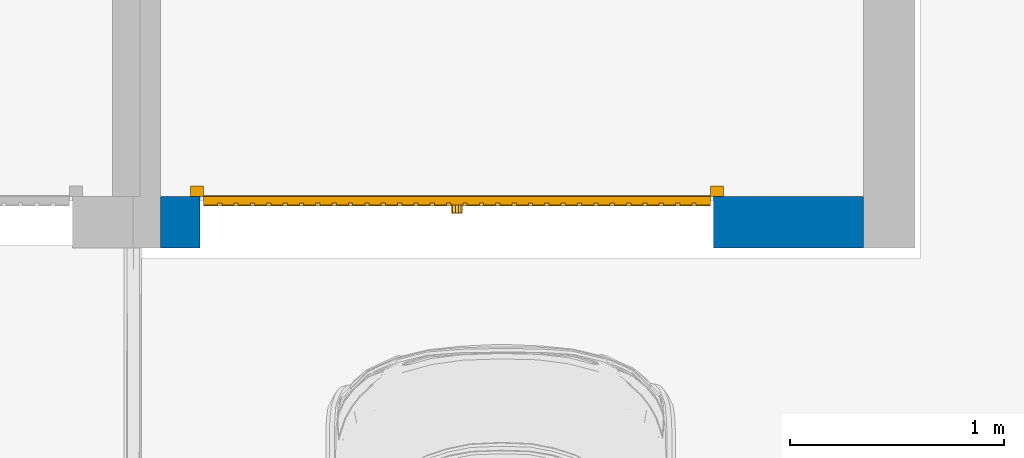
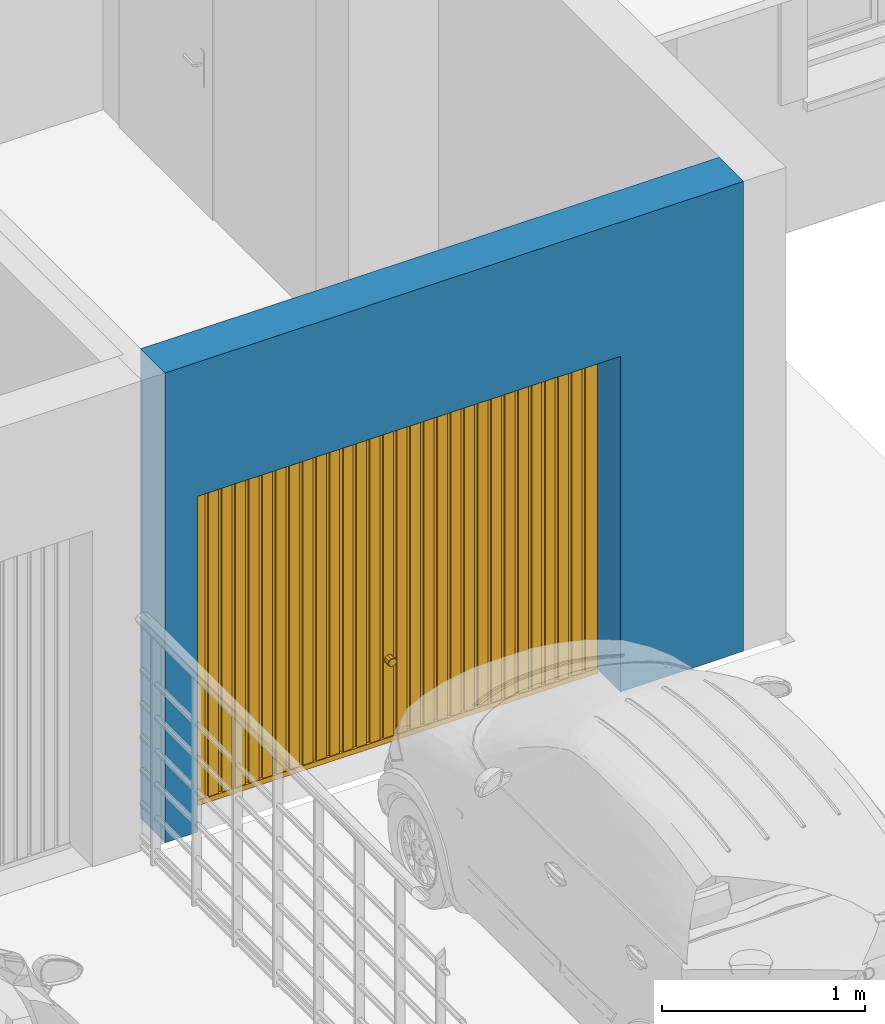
# One storey, part 15 of 33: 1 door, 1 wall, 1 opening.
"""IFC2X3 building model written with IfcOpenShell, lengths in metres."""

from ifc_helpers import new_model, entity, si_unit, converted_unit, derived_unit, direction, frame, frame_2d, origin, place, context, subcontext, project, spatial, rectangle, extrude, faceted_brep, source, transform, mapped, material, material_list, layer, layer_set, layer_usage, type_object, type_shapes, element, fill, save


model = new_model("IFC2X3")

# Units and contexts
model_context = context("Model", 3, precision=1e-05, world=origin(), true_north=direction((6.12303176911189e-17, 1.0)))
context_of_model = context(None, 3, precision=1e-05, world=origin(), true_north=direction((6.12303176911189e-17, 1.0)))
body_context = subcontext(model_context, "Body", "Model", "MODEL_VIEW")
ifc_project = project(units=[si_unit("LENGTHUNIT", "METRE"), si_unit("AREAUNIT", "SQUARE_METRE"), si_unit("VOLUMEUNIT", "CUBIC_METRE"), converted_unit("PLANEANGLEUNIT", "DEGREE", entity("IfcRatioMeasure", 0.0174532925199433), si_unit("PLANEANGLEUNIT", "RADIAN"), dimensions=[0, 0, 0, 0, 0, 0, 0]), si_unit("MASSUNIT", "GRAM", prefix="KILO"), si_unit("TIMEUNIT", "SECOND"), si_unit("FREQUENCYUNIT", "HERTZ"), si_unit("THERMODYNAMICTEMPERATUREUNIT", "DEGREE_CELSIUS"), derived_unit("THERMALTRANSMITTANCEUNIT", [(si_unit("MASSUNIT", "GRAM", prefix="KILO"), 1), (si_unit("THERMODYNAMICTEMPERATUREUNIT", "KELVIN"), -1), (si_unit("TIMEUNIT", "SECOND"), -3)]), derived_unit("VOLUMETRICFLOWRATEUNIT", [(si_unit("LENGTHUNIT", "METRE"), 3), (si_unit("TIMEUNIT", "SECOND"), -1)]), si_unit("ELECTRICCURRENTUNIT", "AMPERE"), si_unit("ELECTRICVOLTAGEUNIT", "VOLT"), si_unit("POWERUNIT", "WATT"), si_unit("FORCEUNIT", "NEWTON", prefix="KILO"), si_unit("ILLUMINANCEUNIT", "LUX"), si_unit("LUMINOUSFLUXUNIT", "LUMEN"), si_unit("LUMINOUSINTENSITYUNIT", "CANDELA"), si_unit("PRESSUREUNIT", "PASCAL")], contexts=[model_context, context_of_model])

# Site, building, storey
site_placement = place(None, origin())
site = spatial("IfcSite", under=ifc_project, at=site_placement, Name="Surface", CompositionType="ELEMENT")
building_placement = place(site_placement, origin())
building = spatial("IfcBuilding", under=site, at=building_placement, CompositionType="ELEMENT")
storey_placement = place(building_placement, origin())
storey = spatial("IfcBuildingStorey", under=building, at=storey_placement, Name="Plan des fondations  Maisons 1 et 2", CompositionType="ELEMENT", Elevation=0.0)

# Wall, opening, door
ifc_material_1 = material(Name="Enduit  gris")
ifc_layer_1 = layer(ifc_material_1, 0.02)
ifc_material_2 = material(Name="Parpaing")
ifc_layer_2 = layer(ifc_material_2, 0.2)
ifc_layer_3 = layer(ifc_material_1, 0.02)
ifc_layer_set = layer_set([ifc_layer_1, ifc_layer_2, ifc_layer_3], Name="Mur de base:Ext. Parpaing 2 + 20 + 2 gris")
ifc_layer_usage = layer_usage(ifc_layer_set, "AXIS2", "NEGATIVE", 0.12)
wall_type = type_object("IfcWallType", Name="Mur de base:Ext. Parpaing 2 + 20 + 2 gris", PredefinedType="STANDARD", material=ifc_layer_set)
wall_placement = place(building_placement, frame((83.8417857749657, 81.0475239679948, 0.0)))
wall = element("IfcWallStandardCase", 1, at=wall_placement, inside=storey, type_object=wall_type, material=ifc_layer_usage, Name="Mur de base:Ext. Parpaing 2 + 20 + 2 gris", ObjectType="Mur de base:Ext. Parpaing 2 + 20 + 2 gris", context=body_context, shape_type="SweptSolid", body=[
    extrude(rectangle(XDim=3.28499999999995, YDim=0.240000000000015, at=frame_2d((1.64249999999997, 0.0), x_axis=(-1.0, 0.0))), origin(), (0.0, 0.0, 1.0), 2.82),
])
opening_placement = place(wall_placement, frame((-83.8417857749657, -81.0475239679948, 0.0)))
opening = element("IfcOpeningElement", 2, at=opening_placement, cuts=wall, Name="Mur de base:Ext. Parpaing 2 + 20 + 2 gris", ObjectType="Opening", context=body_context, shape_type="SweptSolid", body=[
    extrude(rectangle(XDim=2.01500000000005, YDim=2.39999999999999, at=frame_2d((0.0, 8.65973959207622e-15), x_axis=(1.0, 0.0))), frame((85.2267857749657, 80.6275239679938, 1.00750000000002), z_axis=(0.0, 1.0, 0.0), x_axis=(0.0, 0.0, -1.0)), (0.0, 0.0, 1.0), 0.840000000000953),
])
ifc_material_3 = material(Name="Plastique - Noir")
ifc_material_4 = material(Name="Peinture - Grise")
ifc_material_list_1 = material_list([ifc_material_3, ifc_material_4])
ifc_material_list_2 = material_list([ifc_material_3, ifc_material_4])
door_style = type_object("IfcDoorStyle", Name="2.4m x 2m", ConstructionType="NOTDEFINED", OperationType="ROLLINGUP", ParameterTakesPrecedence=False, Sizeable=False, material=ifc_material_list_2)
shared_shape = source(origin(), body_context, "Body", "Brep", [
    faceted_brep([(1.17823441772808, 0.377902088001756, 0.490045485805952), (1.17738728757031, 0.377902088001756, 0.492652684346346), (1.17669426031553, 0.377902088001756, 0.494785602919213), (1.175, 0.377902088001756, 0.500000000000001), (1.17709791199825, 0.380000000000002, 0.500000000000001), (1.17928486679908, 0.380000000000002, 0.493269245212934), (1.18147182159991, 0.380000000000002, 0.486538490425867), (1.17977457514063, 0.377902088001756, 0.485305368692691), (1.21993909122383, 0.380000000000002, 0.490880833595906), (1.22135000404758, 0.380000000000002, 0.495223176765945), (1.22290208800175, 0.380000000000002, 0.500000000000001), (1.225, 0.377902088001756, 0.500000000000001), (1.22261271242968, 0.377902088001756, 0.492652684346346), (1.22022542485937, 0.377902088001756, 0.485305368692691), (1.21852817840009, 0.380000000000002, 0.486538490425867), (1.21397542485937, 0.377902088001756, 0.480764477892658), (1.20772542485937, 0.377902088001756, 0.476223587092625), (1.20707713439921, 0.380000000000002, 0.478218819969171), (1.21280265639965, 0.380000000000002, 0.482378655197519), (1.19292286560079, 0.380000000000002, 0.478218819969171), (1.2, 0.380000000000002, 0.478218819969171), (1.2, 0.377902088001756, 0.476223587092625), (1.19227457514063, 0.377902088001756, 0.476223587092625), (1.18602457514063, 0.377902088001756, 0.480764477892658), (1.18719734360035, 0.380000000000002, 0.482378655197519), (1.22176558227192, 0.377902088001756, 0.509954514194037), (1.22261271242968, 0.377902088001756, 0.507347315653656), (1.22330573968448, 0.377902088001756, 0.505214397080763), (1.22071513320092, 0.380000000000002, 0.506730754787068), (1.21852817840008, 0.380000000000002, 0.513461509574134), (1.22022542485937, 0.377902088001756, 0.514694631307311), (1.18006090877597, 0.380000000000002, 0.5091191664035), (1.17864999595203, 0.380000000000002, 0.504776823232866), (1.17738728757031, 0.377902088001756, 0.507347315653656), (1.17977457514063, 0.377902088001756, 0.514694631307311), (1.18147182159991, 0.380000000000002, 0.513461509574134), (1.18602457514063, 0.377902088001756, 0.519235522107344), (1.19227457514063, 0.377902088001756, 0.523776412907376), (1.19292286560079, 0.380000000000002, 0.521781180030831), (1.18719734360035, 0.380000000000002, 0.517621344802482), (1.20707713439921, 0.380000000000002, 0.521781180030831), (1.2, 0.380000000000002, 0.521781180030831), (1.2, 0.377902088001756, 0.523776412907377), (1.20772542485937, 0.377902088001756, 0.523776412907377), (1.21397542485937, 0.377902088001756, 0.519235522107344), (1.21280265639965, 0.380000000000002, 0.517621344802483), (1.2, 0.380000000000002, 0.500000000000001), (1.2, 0.340000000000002, 0.500000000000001), (1.17977457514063, 0.340000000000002, 0.485305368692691), (1.18602457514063, 0.340000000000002, 0.480764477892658), (1.19227457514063, 0.340000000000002, 0.476223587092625), (1.2, 0.340000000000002, 0.476223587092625), (1.17805454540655, 0.340000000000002, 0.490599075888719), (1.17652727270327, 0.340000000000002, 0.49529953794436), (1.175, 0.340000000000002, 0.500000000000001), (1.20772542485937, 0.340000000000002, 0.476223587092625), (1.21397542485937, 0.340000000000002, 0.480764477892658), (1.22022542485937, 0.340000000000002, 0.485305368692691), (1.22261271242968, 0.340000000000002, 0.492652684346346), (1.22499999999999, 0.340000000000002, 0.500000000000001), (1.22347272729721, 0.340000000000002, 0.50470046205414), (1.17738728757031, 0.340000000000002, 0.507347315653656), (1.17977457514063, 0.340000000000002, 0.514694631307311), (1.18602457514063, 0.340000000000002, 0.519235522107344), (1.19227457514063, 0.340000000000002, 0.523776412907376), (1.22194545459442, 0.340000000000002, 0.509400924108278), (1.22022542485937, 0.340000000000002, 0.514694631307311), (1.21397542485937, 0.340000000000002, 0.519235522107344), (1.20772542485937, 0.340000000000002, 0.523776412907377), (1.2, 0.340000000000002, 0.523776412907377)], [[[0, 1, 2, 3, 4, 5, 6, 7]], [[8, 9, 10, 11, 12, 13, 14]], [[13, 15, 16, 17, 18, 14]], [[19, 20, 17, 16, 21, 22]], [[22, 23, 7, 6, 24, 19]], [[25, 26, 27, 11, 10, 28, 29, 30]], [[31, 32, 4, 3, 33, 34, 35]], [[34, 36, 37, 38, 39, 35]], [[40, 41, 38, 37, 42, 43]], [[43, 44, 30, 29, 45, 40]], [[46, 19, 24]], [[46, 24, 6]], [[46, 6, 5]], [[46, 5, 4]], [[46, 4, 32]], [[46, 20, 19]], [[46, 17, 20]], [[46, 18, 17]], [[46, 14, 18]], [[46, 8, 14]], [[46, 9, 8]], [[46, 10, 9]], [[46, 32, 31]], [[46, 31, 35]], [[46, 35, 39]], [[46, 39, 38]], [[46, 38, 41]], [[46, 28, 10]], [[46, 29, 28]], [[46, 45, 29]], [[46, 40, 45]], [[46, 41, 40]], [[47, 48, 49]], [[47, 49, 50]], [[47, 50, 51]], [[47, 52, 48]], [[47, 53, 52]], [[47, 54, 53]], [[47, 51, 55]], [[47, 55, 56]], [[47, 56, 57]], [[47, 57, 58]], [[47, 58, 59]], [[47, 59, 60]], [[47, 61, 54]], [[47, 62, 61]], [[47, 63, 62]], [[47, 64, 63]], [[47, 60, 65]], [[47, 65, 66]], [[47, 66, 67]], [[47, 67, 68]], [[47, 68, 69]], [[47, 69, 64]], [[13, 57, 56, 55, 16, 15]], [[57, 13, 12, 11, 59, 58]], [[52, 53, 54, 3, 2, 1, 0, 7, 48]], [[21, 16, 55, 51, 50, 22]], [[50, 49, 48, 7, 23, 22]], [[62, 63, 64, 37, 36, 34]], [[33, 3, 54, 61, 62, 34]], [[65, 60, 59, 11, 27, 26, 25, 30, 66]], [[42, 37, 64, 69, 68, 43]], [[68, 67, 66, 30, 44, 43]]]),
    faceted_brep([(0.0149999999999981, 0.29500000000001, 2.0), (2.385, 0.294999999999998, 2.0), (2.385, 0.344999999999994, 2.0), (0.0149999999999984, 0.345000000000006, 2.0), (2.385, 0.294999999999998, 0.0), (0.0149999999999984, 0.29500000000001, 0.0), (0.0149999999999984, 0.344999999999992, 0.0), (2.385, 0.344999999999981, 0.0), (2.31854838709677, 0.330000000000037, 1.97), (2.31854838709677, 0.330000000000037, 0.0300000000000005), (2.29854838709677, 0.330000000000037, 0.0300000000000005), (2.29854838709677, 0.330000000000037, 1.97), (2.29854838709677, 0.339999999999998, 0.0300000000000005), (2.29854838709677, 0.339999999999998, 1.97), (2.24209677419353, 0.339999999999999, 0.0300000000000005), (2.24209677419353, 0.339999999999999, 1.97), (2.24209677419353, 0.330000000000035, 0.0300000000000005), (2.24209677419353, 0.330000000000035, 1.97), (2.22209677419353, 0.330000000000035, 0.0300000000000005), (2.22209677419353, 0.330000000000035, 1.97), (2.22209677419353, 0.339999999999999, 0.0300000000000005), (2.22209677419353, 0.339999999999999, 1.97), (2.1656451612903, 0.339999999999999, 0.0300000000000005), (2.1656451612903, 0.339999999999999, 1.97), (2.1656451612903, 0.330000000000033, 0.0300000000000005), (2.1656451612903, 0.330000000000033, 1.97), (2.1456451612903, 0.330000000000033, 0.0300000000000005), (2.1456451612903, 0.330000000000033, 1.97), (2.1456451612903, 0.339999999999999, 0.0300000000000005), (2.1456451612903, 0.339999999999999, 1.97), (2.08919354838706, 0.339999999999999, 0.0300000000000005), (2.08919354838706, 0.339999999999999, 1.97), (2.08919354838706, 0.33000000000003, 0.0300000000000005), (2.08919354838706, 0.33000000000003, 1.97), (2.06919354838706, 0.330000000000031, 0.0300000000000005), (2.06919354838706, 0.330000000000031, 1.97), (2.06919354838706, 0.339999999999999, 0.0300000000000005), (2.06919354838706, 0.339999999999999, 1.97), (2.01274193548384, 0.339999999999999, 0.0300000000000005), (2.01274193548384, 0.339999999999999, 1.97), (2.01274193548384, 0.330000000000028, 0.0300000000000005), (2.01274193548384, 0.330000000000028, 1.97), (1.99274193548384, 0.330000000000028, 0.0300000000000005), (1.99274193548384, 0.330000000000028, 1.97), (1.99274193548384, 0.339999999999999, 0.0300000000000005), (1.99274193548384, 0.339999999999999, 1.97), (1.9362903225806, 0.34, 0.0300000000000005), (1.9362903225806, 0.34, 1.97), (1.9362903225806, 0.330000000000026, 0.0300000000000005), (1.9362903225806, 0.330000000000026, 1.97), (1.9162903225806, 0.330000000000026, 0.0300000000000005), (1.9162903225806, 0.330000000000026, 1.97), (1.9162903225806, 0.34, 0.0300000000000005), (1.9162903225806, 0.34, 1.97), (1.85983870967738, 0.34, 0.0300000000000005), (1.85983870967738, 0.34, 1.97), (1.85983870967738, 0.330000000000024, 0.0300000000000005), (1.85983870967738, 0.330000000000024, 1.97), (1.83983870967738, 0.330000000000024, 0.0300000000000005), (1.83983870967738, 0.330000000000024, 1.97), (1.83983870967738, 0.34, 0.0300000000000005), (1.83983870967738, 0.34, 1.97), (1.78338709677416, 0.34, 0.0300000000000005), (1.78338709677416, 0.34, 1.97), (1.78338709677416, 0.330000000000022, 0.0300000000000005), (1.78338709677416, 0.330000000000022, 1.97), (1.76338709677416, 0.330000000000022, 0.0300000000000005), (1.76338709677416, 0.330000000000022, 1.97), (1.76338709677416, 0.34, 0.0300000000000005), (1.76338709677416, 0.34, 1.97), (1.70693548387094, 0.34, 0.0300000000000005), (1.70693548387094, 0.34, 1.97), (1.70693548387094, 0.330000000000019, 0.0300000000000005), (1.70693548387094, 0.330000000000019, 1.97), (1.68693548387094, 0.330000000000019, 0.0300000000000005), (1.68693548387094, 0.330000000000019, 1.97), (1.68693548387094, 0.34, 0.0300000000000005), (1.68693548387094, 0.34, 1.97), (1.63048387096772, 0.340000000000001, 0.0300000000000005), (1.63048387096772, 0.340000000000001, 1.97), (1.63048387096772, 0.330000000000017, 0.0300000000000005), (1.63048387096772, 0.330000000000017, 1.97), (1.61048387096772, 0.330000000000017, 0.0300000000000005), (1.61048387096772, 0.330000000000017, 1.97), (1.61048387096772, 0.340000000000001, 0.0300000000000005), (1.61048387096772, 0.340000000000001, 1.97), (1.55403225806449, 0.340000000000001, 0.0300000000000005), (1.55403225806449, 0.340000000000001, 1.97), (1.55403225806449, 0.330000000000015, 0.0300000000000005), (1.55403225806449, 0.330000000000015, 1.97), (1.53403225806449, 0.330000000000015, 0.0300000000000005), (1.53403225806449, 0.330000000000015, 1.97), (1.53403225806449, 0.340000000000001, 0.0300000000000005), (1.53403225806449, 0.340000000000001, 1.97), (1.47758064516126, 0.340000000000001, 0.0300000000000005), (1.47758064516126, 0.340000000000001, 1.97), (1.47758064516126, 0.330000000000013, 0.0300000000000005), (1.47758064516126, 0.330000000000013, 1.97), (1.45758064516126, 0.330000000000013, 0.0300000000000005), (1.45758064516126, 0.330000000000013, 1.97), (1.45758064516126, 0.340000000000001, 0.0300000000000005), (1.45758064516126, 0.340000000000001, 1.97), (1.40112903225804, 0.340000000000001, 0.0300000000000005), (1.40112903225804, 0.340000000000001, 1.97), (1.40112903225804, 0.33000000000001, 0.0300000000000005), (1.40112903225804, 0.33000000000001, 1.97), (1.38112903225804, 0.33000000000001, 0.0300000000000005), (1.38112903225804, 0.33000000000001, 1.97), (1.38112903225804, 0.340000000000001, 0.0300000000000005), (1.38112903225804, 0.340000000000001, 1.97), (1.32467741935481, 0.340000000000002, 0.0300000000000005), (1.32467741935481, 0.340000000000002, 1.97), (1.32467741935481, 0.330000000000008, 0.0300000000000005), (1.32467741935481, 0.330000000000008, 1.97), (1.30467741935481, 0.330000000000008, 0.0300000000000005), (1.30467741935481, 0.330000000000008, 1.97), (1.30467741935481, 0.340000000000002, 0.0300000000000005), (1.30467741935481, 0.340000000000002, 1.97), (1.24822580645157, 0.340000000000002, 0.0300000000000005), (1.24822580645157, 0.340000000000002, 1.97), (1.24822580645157, 0.330000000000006, 0.0300000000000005), (1.24822580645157, 0.330000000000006, 1.97), (1.22822580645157, 0.330000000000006, 0.0300000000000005), (1.22822580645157, 0.330000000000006, 1.97), (1.22822580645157, 0.340000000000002, 0.0300000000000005), (1.22822580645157, 0.340000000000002, 1.97), (1.17177419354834, 0.340000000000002, 0.0300000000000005), (1.17177419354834, 0.340000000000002, 1.97), (1.17177419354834, 0.330000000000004, 0.0300000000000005), (1.17177419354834, 0.330000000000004, 1.97), (1.15177419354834, 0.330000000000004, 0.0300000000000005), (1.15177419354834, 0.330000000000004, 1.97), (1.15177419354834, 0.340000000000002, 0.0300000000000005), (1.15177419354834, 0.340000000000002, 1.97), (1.09532258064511, 0.340000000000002, 0.0300000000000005), (1.09532258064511, 0.340000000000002, 1.97), (1.09532258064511, 0.330000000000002, 0.0300000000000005), (1.09532258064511, 0.330000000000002, 1.97), (1.07532258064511, 0.330000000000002, 0.0300000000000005), (1.07532258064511, 0.330000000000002, 1.97), (1.07532258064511, 0.340000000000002, 0.0300000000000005), (1.07532258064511, 0.340000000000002, 1.97), (1.01887096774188, 0.340000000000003, 0.0300000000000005), (1.01887096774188, 0.340000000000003, 1.97), (1.01887096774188, 0.33, 0.0300000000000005), (1.01887096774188, 0.33, 1.97), (0.998870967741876, 0.33, 0.0300000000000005), (0.998870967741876, 0.33, 1.97), (0.998870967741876, 0.340000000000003, 0.0300000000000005), (0.998870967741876, 0.340000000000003, 1.97), (0.942419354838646, 0.340000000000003, 0.0300000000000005), (0.942419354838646, 0.340000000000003, 1.97), (0.942419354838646, 0.329999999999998, 0.0300000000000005), (0.942419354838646, 0.329999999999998, 1.97), (0.922419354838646, 0.329999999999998, 0.0300000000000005), (0.922419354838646, 0.329999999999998, 1.97), (0.922419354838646, 0.340000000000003, 0.0300000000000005), (0.922419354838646, 0.340000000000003, 1.97), (0.865967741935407, 0.340000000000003, 0.0300000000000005), (0.865967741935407, 0.340000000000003, 1.97), (0.865967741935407, 0.329999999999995, 0.0300000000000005), (0.865967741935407, 0.329999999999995, 1.97), (0.845967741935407, 0.329999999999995, 0.0300000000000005), (0.845967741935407, 0.329999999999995, 1.97), (0.845967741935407, 0.340000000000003, 0.0300000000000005), (0.845967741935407, 0.340000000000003, 1.97), (0.789516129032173, 0.340000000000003, 0.0300000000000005), (0.789516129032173, 0.340000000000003, 1.97), (0.789516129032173, 0.329999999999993, 0.0300000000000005), (0.789516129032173, 0.329999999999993, 1.97), (0.769516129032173, 0.329999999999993, 0.0300000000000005), (0.769516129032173, 0.329999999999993, 1.97), (0.769516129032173, 0.340000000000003, 0.0300000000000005), (0.769516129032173, 0.340000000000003, 1.97), (0.713064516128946, 0.340000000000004, 0.0300000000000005), (0.713064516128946, 0.340000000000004, 1.97), (0.713064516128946, 0.329999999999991, 0.0300000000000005), (0.713064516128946, 0.329999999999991, 1.97), (0.693064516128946, 0.329999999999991, 0.0300000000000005), (0.693064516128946, 0.329999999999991, 1.97), (0.693064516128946, 0.340000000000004, 0.0300000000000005), (0.693064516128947, 0.340000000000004, 1.97), (0.636612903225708, 0.340000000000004, 0.0300000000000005), (0.636612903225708, 0.340000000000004, 1.97), (0.636612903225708, 0.329999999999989, 0.0300000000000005), (0.636612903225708, 0.329999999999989, 1.97), (0.616612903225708, 0.329999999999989, 0.0300000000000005), (0.616612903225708, 0.329999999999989, 1.97), (0.616612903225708, 0.340000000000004, 0.0300000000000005), (0.616612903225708, 0.340000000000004, 1.97), (0.56016129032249, 0.340000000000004, 0.0300000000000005), (0.56016129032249, 0.340000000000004, 1.97), (0.56016129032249, 0.329999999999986, 0.0300000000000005), (0.56016129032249, 0.329999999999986, 1.97), (0.54016129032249, 0.329999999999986, 0.0300000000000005), (0.54016129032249, 0.329999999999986, 1.97), (0.54016129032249, 0.340000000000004, 0.0300000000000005), (0.54016129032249, 0.340000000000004, 1.97), (0.483709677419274, 0.340000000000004, 0.0300000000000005), (0.483709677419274, 0.340000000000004, 1.97), (0.483709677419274, 0.329999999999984, 0.0300000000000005), (0.483709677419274, 0.329999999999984, 1.97), (0.463709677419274, 0.329999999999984, 0.0300000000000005), (0.463709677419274, 0.329999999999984, 1.97), (0.463709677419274, 0.340000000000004, 0.0300000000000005), (0.463709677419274, 0.340000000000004, 1.97), (0.407258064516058, 0.340000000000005, 0.0300000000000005), (0.407258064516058, 0.340000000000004, 1.97), (0.407258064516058, 0.329999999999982, 0.0300000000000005), (0.407258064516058, 0.329999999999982, 1.97), (0.387258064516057, 0.329999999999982, 0.0300000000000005), (0.387258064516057, 0.329999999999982, 1.97), (0.387258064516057, 0.340000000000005, 0.0300000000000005), (0.387258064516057, 0.340000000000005, 1.97), (0.330806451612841, 0.340000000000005, 0.0300000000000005), (0.330806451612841, 0.340000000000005, 1.97), (0.330806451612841, 0.32999999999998, 0.0300000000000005), (0.330806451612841, 0.32999999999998, 1.97), (0.310806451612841, 0.32999999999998, 0.0300000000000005), (0.310806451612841, 0.32999999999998, 1.97), (0.310806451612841, 0.340000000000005, 0.0300000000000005), (0.310806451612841, 0.340000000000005, 1.97), (0.254354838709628, 0.340000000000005, 0.0300000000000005), (0.254354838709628, 0.340000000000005, 1.97), (0.254354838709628, 0.329999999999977, 0.0300000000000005), (0.254354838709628, 0.329999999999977, 1.97), (0.234354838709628, 0.329999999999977, 0.0300000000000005), (0.234354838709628, 0.329999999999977, 1.97), (0.234354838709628, 0.340000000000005, 0.0300000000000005), (0.234354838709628, 0.340000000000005, 1.97), (0.177903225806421, 0.340000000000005, 0.0300000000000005), (0.177903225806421, 0.340000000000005, 1.97), (0.177903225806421, 0.329999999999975, 0.0300000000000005), (0.177903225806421, 0.329999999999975, 1.97), (0.15790322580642, 0.329999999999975, 0.0300000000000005), (0.15790322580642, 0.329999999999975, 1.97), (0.15790322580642, 0.340000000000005, 0.0300000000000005), (0.15790322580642, 0.340000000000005, 1.97), (0.101451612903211, 0.340000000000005, 0.0300000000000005), (0.101451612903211, 0.340000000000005, 1.97), (0.101451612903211, 0.329999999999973, 0.0300000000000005), (0.101451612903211, 0.329999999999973, 1.97), (0.0814516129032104, 0.329999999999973, 0.0300000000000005), (0.0814516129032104, 0.329999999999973, 1.97), (0.0814516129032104, 0.340000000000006, 0.0300000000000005), (0.0814516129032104, 0.340000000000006, 1.97), (0.0149999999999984, 0.340000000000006, 0.0300000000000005), (0.0149999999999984, 0.340000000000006, 1.97), (0.0149999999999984, 0.345000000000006, 1.97), (0.0149999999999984, 0.344999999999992, 0.0300000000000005), (0.0149999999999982, 0.29500000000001, 0.0300000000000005), (0.0149999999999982, 0.300000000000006, 0.0300000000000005), (0.0149999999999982, 0.300000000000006, 1.97), (0.0149999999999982, 0.29500000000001, 1.97), (2.385, 0.299999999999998, 0.0300000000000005), (2.385, 0.299999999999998, 1.97), (2.385, 0.294999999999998, 1.97), (2.385, 0.294999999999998, 0.0300000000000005), (2.385, 0.344999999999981, 0.0300000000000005), (2.385, 0.339999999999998, 0.0300000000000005), (2.385, 0.339999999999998, 1.97), (2.385, 0.344999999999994, 1.97), (2.31854838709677, 0.339999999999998, 0.0300000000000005), (2.31854838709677, 0.339999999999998, 1.97)], [[[0, 1, 2, 3]], [[4, 5, 6, 7]], [[8, 9, 10, 11]], [[11, 10, 12, 13]], [[13, 12, 14, 15]], [[15, 14, 16, 17]], [[17, 16, 18, 19]], [[19, 18, 20, 21]], [[21, 20, 22, 23]], [[23, 22, 24, 25]], [[25, 24, 26, 27]], [[27, 26, 28, 29]], [[29, 28, 30, 31]], [[31, 30, 32, 33]], [[33, 32, 34, 35]], [[35, 34, 36, 37]], [[37, 36, 38, 39]], [[39, 38, 40, 41]], [[41, 40, 42, 43]], [[43, 42, 44, 45]], [[45, 44, 46, 47]], [[47, 46, 48, 49]], [[49, 48, 50, 51]], [[51, 50, 52, 53]], [[53, 52, 54, 55]], [[55, 54, 56, 57]], [[57, 56, 58, 59]], [[59, 58, 60, 61]], [[61, 60, 62, 63]], [[63, 62, 64, 65]], [[65, 64, 66, 67]], [[67, 66, 68, 69]], [[69, 68, 70, 71]], [[71, 70, 72, 73]], [[73, 72, 74, 75]], [[75, 74, 76, 77]], [[77, 76, 78, 79]], [[79, 78, 80, 81]], [[81, 80, 82, 83]], [[83, 82, 84, 85]], [[85, 84, 86, 87]], [[87, 86, 88, 89]], [[89, 88, 90, 91]], [[91, 90, 92, 93]], [[93, 92, 94, 95]], [[95, 94, 96, 97]], [[97, 96, 98, 99]], [[99, 98, 100, 101]], [[101, 100, 102, 103]], [[103, 102, 104, 105]], [[105, 104, 106, 107]], [[107, 106, 108, 109]], [[109, 108, 110, 111]], [[111, 110, 112, 113]], [[113, 112, 114, 115]], [[115, 114, 116, 117]], [[117, 116, 118, 119]], [[119, 118, 120, 121]], [[121, 120, 122, 123]], [[123, 122, 124, 125]], [[125, 124, 126, 127]], [[127, 126, 128, 129]], [[129, 128, 130, 131]], [[131, 130, 132, 133]], [[133, 132, 134, 135]], [[135, 134, 136, 137]], [[137, 136, 138, 139]], [[139, 138, 140, 141]], [[141, 140, 142, 143]], [[143, 142, 144, 145]], [[145, 144, 146, 147]], [[147, 146, 148, 149]], [[149, 148, 150, 151]], [[151, 150, 152, 153]], [[153, 152, 154, 155]], [[155, 154, 156, 157]], [[157, 156, 158, 159]], [[159, 158, 160, 161]], [[161, 160, 162, 163]], [[163, 162, 164, 165]], [[165, 164, 166, 167]], [[167, 166, 168, 169]], [[169, 168, 170, 171]], [[171, 170, 172, 173]], [[173, 172, 174, 175]], [[175, 174, 176, 177]], [[177, 176, 178, 179]], [[179, 178, 180, 181]], [[181, 180, 182, 183]], [[183, 182, 184, 185]], [[185, 184, 186, 187]], [[187, 186, 188, 189]], [[189, 188, 190, 191]], [[191, 190, 192, 193]], [[193, 192, 194, 195]], [[195, 194, 196, 197]], [[197, 196, 198, 199]], [[199, 198, 200, 201]], [[201, 200, 202, 203]], [[203, 202, 204, 205]], [[205, 204, 206, 207]], [[207, 206, 208, 209]], [[209, 208, 210, 211]], [[211, 210, 212, 213]], [[213, 212, 214, 215]], [[215, 214, 216, 217]], [[217, 216, 218, 219]], [[219, 218, 220, 221]], [[221, 220, 222, 223]], [[223, 222, 224, 225]], [[225, 224, 226, 227]], [[227, 226, 228, 229]], [[229, 228, 230, 231]], [[231, 230, 232, 233]], [[233, 232, 234, 235]], [[235, 234, 236, 237]], [[237, 236, 238, 239]], [[239, 238, 240, 241]], [[241, 240, 242, 243]], [[243, 242, 244, 245]], [[245, 244, 246, 247]], [[0, 3, 248, 247, 246, 249, 6, 5, 250, 251, 252, 253]], [[252, 251, 254, 255]], [[2, 1, 256, 255, 254, 257, 4, 7, 258, 259, 260, 261]], [[260, 259, 262, 263]], [[9, 8, 263, 262]], [[256, 253, 252, 255]], [[2, 261, 248, 3]], [[256, 1, 0, 253]], [[4, 257, 250, 5]], [[258, 7, 6, 249]], [[250, 257, 254, 251]], [[258, 249, 246, 244, 242, 240, 238, 236, 234, 232, 230, 228, 226, 224, 222, 220, 218, 216, 214, 212, 210, 208, 206, 204, 202, 200, 198, 196, 194, 192, 190, 188, 186, 184, 182, 180, 178, 176, 174, 172, 170, 168, 166, 164, 162, 160, 158, 156, 154, 152, 150, 148, 146, 144, 142, 140, 138, 136, 134, 132, 130, 128, 126, 124, 122, 120, 118, 116, 114, 112, 110, 108, 106, 104, 102, 100, 98, 96, 94, 92, 90, 88, 86, 84, 82, 80, 78, 76, 74, 72, 70, 68, 66, 64, 62, 60, 58, 56, 54, 52, 50, 48, 46, 44, 42, 40, 38, 36, 34, 32, 30, 28, 26, 24, 22, 20, 18, 16, 14, 12, 10, 9, 262, 259]], [[248, 261, 260, 263, 8, 11, 13, 15, 17, 19, 21, 23, 25, 27, 29, 31, 33, 35, 37, 39, 41, 43, 45, 47, 49, 51, 53, 55, 57, 59, 61, 63, 65, 67, 69, 71, 73, 75, 77, 79, 81, 83, 85, 87, 89, 91, 93, 95, 97, 99, 101, 103, 105, 107, 109, 111, 113, 115, 117, 119, 121, 123, 125, 127, 129, 131, 133, 135, 137, 139, 141, 143, 145, 147, 149, 151, 153, 155, 157, 159, 161, 163, 165, 167, 169, 171, 173, 175, 177, 179, 181, 183, 185, 187, 189, 191, 193, 195, 197, 199, 201, 203, 205, 207, 209, 211, 213, 215, 217, 219, 221, 223, 225, 227, 229, 231, 233, 235, 237, 239, 241, 243, 245, 247]]]),
    faceted_brep([(0.0149999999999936, 0.25, 0.0), (-0.0450000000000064, 0.25, 0.0), (-0.0450000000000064, 0.3, 0.0), (0.0149999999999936, 0.3, 0.0), (0.0149999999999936, 0.25, 2.0), (2.385, 0.25, 2.0), (2.385, 0.25, 0.0), (2.445, 0.25, 0.0), (2.445, 0.25, 2.06000000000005), (-0.0450000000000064, 0.25, 2.06000000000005), (-0.0450000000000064, 0.3, 2.06000000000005), (2.445, 0.3, 2.06000000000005), (2.445, 0.3, 0.0), (2.385, 0.3, 0.0), (2.385, 0.3, 2.0), (0.0149999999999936, 0.3, 2.0)], [[[0, 1, 2, 3]], [[1, 0, 4, 5, 6, 7, 8, 9]], [[2, 1, 9, 10]], [[3, 2, 10, 11, 12, 13, 14, 15]], [[0, 3, 15, 4]], [[5, 14, 13, 6]], [[6, 13, 12, 7]], [[11, 8, 7, 12]], [[10, 9, 8, 11]], [[4, 15, 14, 5]]]),
])
type_shapes(door_style, [shared_shape])
door_placement = place(opening_placement, frame((86.4267857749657, 81.4675239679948, 0.0), z_axis=(0.0, 0.0, 1.0), x_axis=(-1.0, 0.0, 0.0)))
door = element("IfcDoor", 3, at=door_placement, inside=storey, type_object=door_style, material=ifc_material_list_1, Name="Garage basculante:2.4m x 2m", ObjectType="2.4m x 2m", OverallHeight=2.39999999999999, OverallWidth=2.01500000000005, context=body_context, shape_type="MappedRepresentation", body=[
    mapped(shared_shape, transform((0.0, 0.0, 0.0), scale=1.0)),
])
fill(opening, door)

save(model, "model.ifc")
